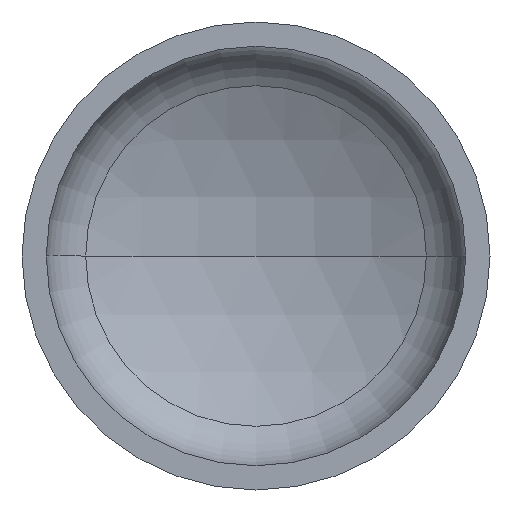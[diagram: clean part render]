
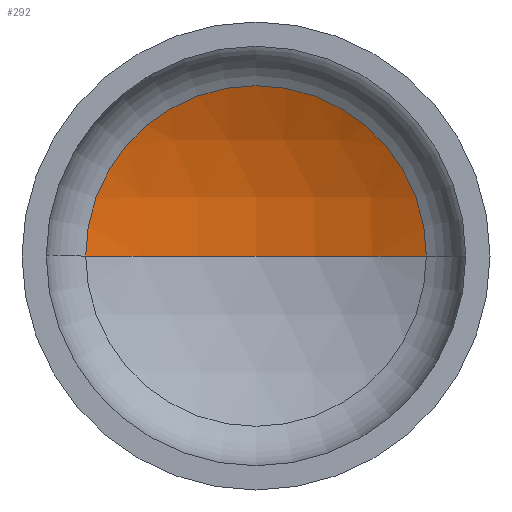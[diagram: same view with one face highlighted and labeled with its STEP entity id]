
A CAD part, front view. The second image highlights one B-rep face of the part: STEP entity #292.
In plain terms, the highlighted spherical face has radius 1760 mm.
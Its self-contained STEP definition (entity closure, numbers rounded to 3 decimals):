
#1 = AXIS2_PLACEMENT_3D ( 'NONE', #204, #314, #88 ) ;
#10 = EDGE_LOOP ( 'NONE', ( #135, #131, #74 ) ) ;
#25 = AXIS2_PLACEMENT_3D ( 'NONE', #402, #405, #313 ) ;
#30 = CIRCLE ( 'NONE', #1, 1760. ) ;
#35 = AXIS2_PLACEMENT_3D ( 'NONE', #294, #162, #323 ) ;
#41 = VERTEX_POINT ( 'NONE', #286 ) ;
#74 = ORIENTED_EDGE ( 'NONE', *, *, #357, .T. ) ;
#79 = VERTEX_POINT ( 'NONE', #409 ) ;
#83 = AXIS2_PLACEMENT_3D ( 'NONE', #268, #224, #283 ) ;
#88 = DIRECTION ( 'NONE',  ( 1., 0., 0. ) ) ;
#131 = ORIENTED_EDGE ( 'NONE', *, *, #361, .T. ) ;
#135 = ORIENTED_EDGE ( 'NONE', *, *, #396, .F. ) ;
#136 = VERTEX_POINT ( 'NONE', #219 ) ;
#162 = DIRECTION ( 'NONE',  ( 0., -1., 0. ) ) ;
#165 = SPHERICAL_SURFACE ( 'NONE', #83, 1760. ) ;
#204 = CARTESIAN_POINT ( 'NONE',  ( 0., -1189.549, 0. ) ) ;
#219 = CARTESIAN_POINT ( 'NONE',  ( 0., 570.451, 0. ) ) ;
#224 = DIRECTION ( 'NONE',  ( 0., 0., -1. ) ) ;
#266 = CIRCLE ( 'NONE', #25, 1760. ) ;
#268 = CARTESIAN_POINT ( 'NONE',  ( 0., -1189.549, 0. ) ) ;
#283 = DIRECTION ( 'NONE',  ( -1., 0., 0. ) ) ;
#286 = CARTESIAN_POINT ( 'NONE',  ( 800.676, 377.779, 0. ) ) ;
#287 = FACE_OUTER_BOUND ( 'NONE', #10, .T. ) ;
#292 = ADVANCED_FACE ( 'NONE', ( #287 ), #165, .F. ) ;
#294 = CARTESIAN_POINT ( 'NONE',  ( 0., 377.779, 0. ) ) ;
#313 = DIRECTION ( 'NONE',  ( -1., 0., 0. ) ) ;
#314 = DIRECTION ( 'NONE',  ( 0., 0., 1. ) ) ;
#323 = DIRECTION ( 'NONE',  ( 1., 0., 0. ) ) ;
#357 = EDGE_CURVE ( 'NONE', #41, #79, #390, .T. ) ;
#361 = EDGE_CURVE ( 'NONE', #136, #41, #266, .T. ) ;
#390 = CIRCLE ( 'NONE', #35, 800.676 ) ;
#396 = EDGE_CURVE ( 'NONE', #136, #79, #30, .T. ) ;
#402 = CARTESIAN_POINT ( 'NONE',  ( 0., -1189.549, 0. ) ) ;
#405 = DIRECTION ( 'NONE',  ( 0., 0., -1. ) ) ;
#409 = CARTESIAN_POINT ( 'NONE',  ( -800.676, 377.779, 0. ) ) ;
